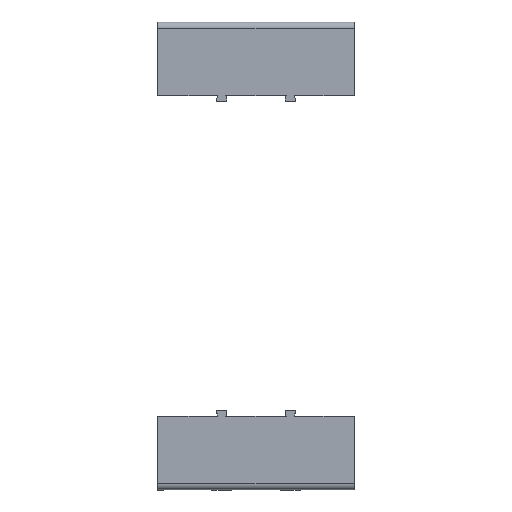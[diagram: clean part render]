
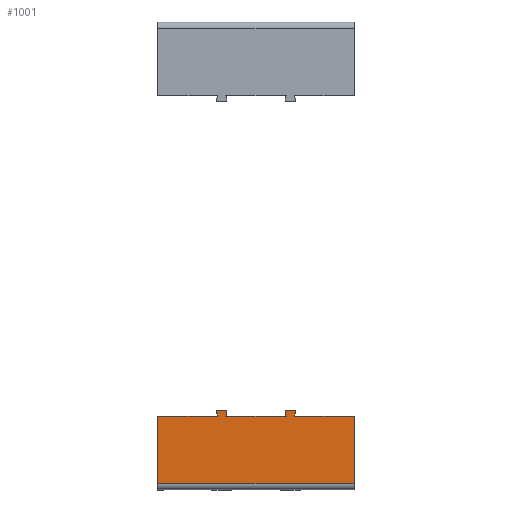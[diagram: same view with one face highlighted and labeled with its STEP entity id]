
A CAD part, top view. The second image highlights one B-rep face of the part: STEP entity #1001.
In plain terms, the highlighted planar face has unit normal (0, 0, 1).
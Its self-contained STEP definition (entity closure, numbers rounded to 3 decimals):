
#70 = CARTESIAN_POINT ( 'NONE',  ( -53.765, -87.5, 72.87 ) ) ;
#140 = ORIENTED_EDGE ( 'NONE', *, *, #1882, .T. ) ;
#159 = LINE ( 'NONE', #2237, #465 ) ;
#220 = CARTESIAN_POINT ( 'NONE',  ( 21.65, -84.5, 72.87 ) ) ;
#402 = ORIENTED_EDGE ( 'NONE', *, *, #1398, .T. ) ;
#424 = DIRECTION ( 'NONE',  ( 0.196, -0.981, 0. ) ) ;
#461 = VECTOR ( 'NONE', #3487, 1000. ) ;
#465 = VECTOR ( 'NONE', #4995, 1000. ) ;
#521 = LINE ( 'NONE', #70, #5387 ) ;
#579 = CARTESIAN_POINT ( 'NONE',  ( 15.85, -84.5, 72.87 ) ) ;
#617 = PLANE ( 'NONE',  #4752 ) ;
#673 = EDGE_CURVE ( 'NONE', #2373, #2119, #3389, .T. ) ;
#763 = CARTESIAN_POINT ( 'NONE',  ( -53.765, -87.5, 72.87 ) ) ;
#847 = ORIENTED_EDGE ( 'NONE', *, *, #4686, .F. ) ;
#953 = CARTESIAN_POINT ( 'NONE',  ( -15.85, -84.5, 72.87 ) ) ;
#1001 = ADVANCED_FACE ( 'NONE', ( #5575 ), #617, .F. ) ;
#1003 = DIRECTION ( 'NONE',  ( 0., 0., -1. ) ) ;
#1050 = VERTEX_POINT ( 'NONE', #4765 ) ;
#1088 = DIRECTION ( 'NONE',  ( 0., 1., 0. ) ) ;
#1296 = LINE ( 'NONE', #2511, #2912 ) ;
#1331 = ORIENTED_EDGE ( 'NONE', *, *, #2551, .F. ) ;
#1398 = EDGE_CURVE ( 'NONE', #5551, #4304, #5283, .T. ) ;
#1405 = DIRECTION ( 'NONE',  ( 1., 0., 0. ) ) ;
#1412 = ORIENTED_EDGE ( 'NONE', *, *, #1745, .T. ) ;
#1445 = CARTESIAN_POINT ( 'NONE',  ( 16.45, -87.5, 72.87 ) ) ;
#1446 = CARTESIAN_POINT ( 'NONE',  ( -21.65, -84.5, 72.87 ) ) ;
#1612 = ORIENTED_EDGE ( 'NONE', *, *, #1859, .T. ) ;
#1745 = EDGE_CURVE ( 'NONE', #3515, #2075, #3911, .T. ) ;
#1752 = CARTESIAN_POINT ( 'NONE',  ( 53.765, -124.29, 72.87 ) ) ;
#1763 = CARTESIAN_POINT ( 'NONE',  ( -16.45, -87.5, 72.87 ) ) ;
#1859 = EDGE_CURVE ( 'NONE', #3174, #3515, #3483, .T. ) ;
#1882 = EDGE_CURVE ( 'NONE', #4801, #2553, #159, .T. ) ;
#1908 = VECTOR ( 'NONE', #4924, 1000. ) ;
#2054 = DIRECTION ( 'NONE',  ( 1., 0., 0. ) ) ;
#2075 = VERTEX_POINT ( 'NONE', #1446 ) ;
#2119 = VERTEX_POINT ( 'NONE', #220 ) ;
#2128 = CARTESIAN_POINT ( 'NONE',  ( 21.05, -87.5, 72.87 ) ) ;
#2237 = CARTESIAN_POINT ( 'NONE',  ( 16.45, -87.5, 72.87 ) ) ;
#2282 = CARTESIAN_POINT ( 'NONE',  ( -21.65, -84.5, 72.87 ) ) ;
#2295 = VECTOR ( 'NONE', #5372, 1000. ) ;
#2373 = VERTEX_POINT ( 'NONE', #2128 ) ;
#2391 = CARTESIAN_POINT ( 'NONE',  ( -53.765, -87.5, 72.87 ) ) ;
#2408 = EDGE_CURVE ( 'NONE', #2075, #3875, #4198, .T. ) ;
#2476 = ORIENTED_EDGE ( 'NONE', *, *, #5424, .F. ) ;
#2498 = CARTESIAN_POINT ( 'NONE',  ( -53.765, -87.5, 72.87 ) ) ;
#2511 = CARTESIAN_POINT ( 'NONE',  ( 53.765, -124.29, 72.87 ) ) ;
#2551 = EDGE_CURVE ( 'NONE', #5551, #3875, #521, .T. ) ;
#2553 = VERTEX_POINT ( 'NONE', #1445 ) ;
#2604 = CARTESIAN_POINT ( 'NONE',  ( -53.765, -87.5, 72.87 ) ) ;
#2757 = VECTOR ( 'NONE', #3552, 1000. ) ;
#2827 = CARTESIAN_POINT ( 'NONE',  ( -53.765, -124.29, 72.87 ) ) ;
#2868 = DIRECTION ( 'NONE',  ( 1., 0., 0. ) ) ;
#2876 = VECTOR ( 'NONE', #4159, 1000. ) ;
#2912 = VECTOR ( 'NONE', #3423, 1000. ) ;
#3098 = ORIENTED_EDGE ( 'NONE', *, *, #3833, .T. ) ;
#3144 = CARTESIAN_POINT ( 'NONE',  ( 21.65, -84.5, 72.87 ) ) ;
#3174 = VERTEX_POINT ( 'NONE', #4107 ) ;
#3210 = ORIENTED_EDGE ( 'NONE', *, *, #673, .T. ) ;
#3245 = VECTOR ( 'NONE', #2054, 1000. ) ;
#3330 = ORIENTED_EDGE ( 'NONE', *, *, #5213, .T. ) ;
#3389 = LINE ( 'NONE', #3144, #1908 ) ;
#3423 = DIRECTION ( 'NONE',  ( 1., 0., 0. ) ) ;
#3483 = LINE ( 'NONE', #1763, #2295 ) ;
#3487 = DIRECTION ( 'NONE',  ( -1., 0., 0. ) ) ;
#3515 = VERTEX_POINT ( 'NONE', #953 ) ;
#3552 = DIRECTION ( 'NONE',  ( -1., 0., 0. ) ) ;
#3616 = LINE ( 'NONE', #5398, #3684 ) ;
#3684 = VECTOR ( 'NONE', #4445, 1000. ) ;
#3706 = CARTESIAN_POINT ( 'NONE',  ( -53.765, -87.5, 72.87 ) ) ;
#3833 = EDGE_CURVE ( 'NONE', #4304, #3937, #1296, .T. ) ;
#3875 = VERTEX_POINT ( 'NONE', #4353 ) ;
#3911 = LINE ( 'NONE', #4900, #461 ) ;
#3937 = VERTEX_POINT ( 'NONE', #1752 ) ;
#4022 = CARTESIAN_POINT ( 'NONE',  ( 15.85, -84.5, 72.87 ) ) ;
#4107 = CARTESIAN_POINT ( 'NONE',  ( -16.45, -87.5, 72.87 ) ) ;
#4159 = DIRECTION ( 'NONE',  ( 0., -1., 0. ) ) ;
#4197 = LINE ( 'NONE', #2604, #4266 ) ;
#4198 = LINE ( 'NONE', #2282, #4818 ) ;
#4266 = VECTOR ( 'NONE', #2868, 1000. ) ;
#4304 = VERTEX_POINT ( 'NONE', #2827 ) ;
#4353 = CARTESIAN_POINT ( 'NONE',  ( -21.05, -87.5, 72.87 ) ) ;
#4394 = ORIENTED_EDGE ( 'NONE', *, *, #5732, .F. ) ;
#4445 = DIRECTION ( 'NONE',  ( 0., -1., 0. ) ) ;
#4464 = EDGE_LOOP ( 'NONE', ( #402, #3098, #847, #2476, #3210, #3330, #140, #4394, #1612, #1412, #5833, #1331 ) ) ;
#4655 = LINE ( 'NONE', #4022, #2757 ) ;
#4686 = EDGE_CURVE ( 'NONE', #1050, #3937, #3616, .T. ) ;
#4752 = AXIS2_PLACEMENT_3D ( 'NONE', #2391, #1003, #1088 ) ;
#4765 = CARTESIAN_POINT ( 'NONE',  ( 53.765, -87.5, 72.87 ) ) ;
#4801 = VERTEX_POINT ( 'NONE', #579 ) ;
#4818 = VECTOR ( 'NONE', #424, 1000. ) ;
#4900 = CARTESIAN_POINT ( 'NONE',  ( -15.85, -84.5, 72.87 ) ) ;
#4924 = DIRECTION ( 'NONE',  ( 0.196, 0.981, 0. ) ) ;
#4995 = DIRECTION ( 'NONE',  ( 0.196, -0.981, 0. ) ) ;
#5211 = LINE ( 'NONE', #2498, #3245 ) ;
#5213 = EDGE_CURVE ( 'NONE', #2119, #4801, #4655, .T. ) ;
#5283 = LINE ( 'NONE', #3706, #2876 ) ;
#5372 = DIRECTION ( 'NONE',  ( 0.196, 0.981, 0. ) ) ;
#5387 = VECTOR ( 'NONE', #1405, 1000. ) ;
#5398 = CARTESIAN_POINT ( 'NONE',  ( 53.765, -87.5, 72.87 ) ) ;
#5424 = EDGE_CURVE ( 'NONE', #2373, #1050, #5211, .T. ) ;
#5551 = VERTEX_POINT ( 'NONE', #763 ) ;
#5575 = FACE_OUTER_BOUND ( 'NONE', #4464, .T. ) ;
#5732 = EDGE_CURVE ( 'NONE', #3174, #2553, #4197, .T. ) ;
#5833 = ORIENTED_EDGE ( 'NONE', *, *, #2408, .T. ) ;
